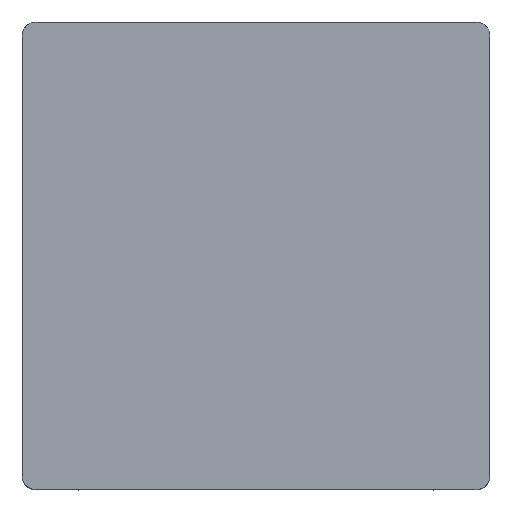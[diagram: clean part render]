
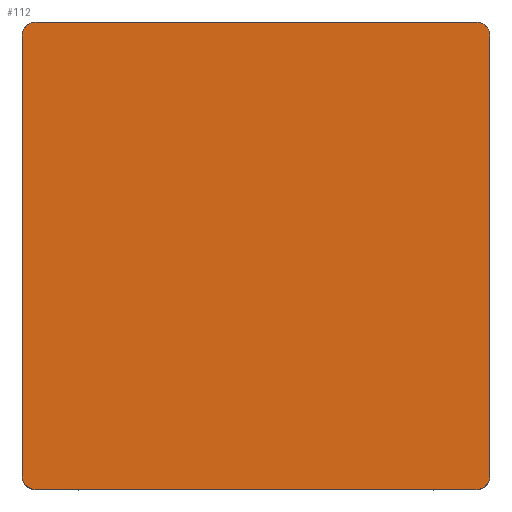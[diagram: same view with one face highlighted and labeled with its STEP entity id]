
A CAD part, top view. The second image highlights one B-rep face of the part: STEP entity #112.
In plain terms, the highlighted planar face has unit normal (0, 0, 1).
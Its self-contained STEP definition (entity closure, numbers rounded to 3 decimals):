
#112=ADVANCED_FACE($,(#342),#2814,.T.);
#342=FACE_OUTER_BOUND($,#572,.T.);
#572=EDGE_LOOP($,(#836,#837,#838,#839,#840,#841,#842,#843));
#836=ORIENTED_EDGE($,*,*,#1887,.F.);
#837=ORIENTED_EDGE($,*,*,#1878,.F.);
#838=ORIENTED_EDGE($,*,*,#1886,.F.);
#839=ORIENTED_EDGE($,*,*,#1877,.F.);
#840=ORIENTED_EDGE($,*,*,#1885,.F.);
#841=ORIENTED_EDGE($,*,*,#1876,.F.);
#842=ORIENTED_EDGE($,*,*,#1884,.F.);
#843=ORIENTED_EDGE($,*,*,#1879,.F.);
#1876=EDGE_CURVE($,#2405,#2404,#3070,.T.);
#1877=EDGE_CURVE($,#2407,#2406,#3071,.T.);
#1878=EDGE_CURVE($,#2409,#2408,#3072,.T.);
#1879=EDGE_CURVE($,#2411,#2410,#3073,.T.);
#1884=EDGE_CURVE($,#2410,#2405,#2918,.T.);
#1885=EDGE_CURVE($,#2404,#2407,#2919,.T.);
#1886=EDGE_CURVE($,#2406,#2409,#2920,.T.);
#1887=EDGE_CURVE($,#2408,#2411,#2921,.T.);
#2404=VERTEX_POINT($,#3870);
#2405=VERTEX_POINT($,#3871);
#2406=VERTEX_POINT($,#3872);
#2407=VERTEX_POINT($,#3873);
#2408=VERTEX_POINT($,#3874);
#2409=VERTEX_POINT($,#3875);
#2410=VERTEX_POINT($,#3876);
#2411=VERTEX_POINT($,#3877);
#2814=PLANE($,#3528);
#2918=(
BOUNDED_CURVE()
B_SPLINE_CURVE(2,(#3764,#3765,#3766),.UNSPECIFIED.,.F.,.F.)
B_SPLINE_CURVE_WITH_KNOTS((3,3),(-1.,0.),.UNSPECIFIED.)
CURVE()
GEOMETRIC_REPRESENTATION_ITEM()
RATIONAL_B_SPLINE_CURVE((1.,0.707,1.))
REPRESENTATION_ITEM($)
);
#2919=(
BOUNDED_CURVE()
B_SPLINE_CURVE(2,(#3767,#3768,#3769),.UNSPECIFIED.,.F.,.F.)
B_SPLINE_CURVE_WITH_KNOTS((3,3),(0.,1.),.UNSPECIFIED.)
CURVE()
GEOMETRIC_REPRESENTATION_ITEM()
RATIONAL_B_SPLINE_CURVE((1.,0.707,1.))
REPRESENTATION_ITEM($)
);
#2920=(
BOUNDED_CURVE()
B_SPLINE_CURVE(2,(#3770,#3771,#3772),.UNSPECIFIED.,.F.,.F.)
B_SPLINE_CURVE_WITH_KNOTS((3,3),(0.,1.),.UNSPECIFIED.)
CURVE()
GEOMETRIC_REPRESENTATION_ITEM()
RATIONAL_B_SPLINE_CURVE((1.,0.707,1.))
REPRESENTATION_ITEM($)
);
#2921=(
BOUNDED_CURVE()
B_SPLINE_CURVE(2,(#3773,#3774,#3775),.UNSPECIFIED.,.F.,.F.)
B_SPLINE_CURVE_WITH_KNOTS((3,3),(0.,1.),.UNSPECIFIED.)
CURVE()
GEOMETRIC_REPRESENTATION_ITEM()
RATIONAL_B_SPLINE_CURVE((1.,0.707,1.))
REPRESENTATION_ITEM($)
);
#3070=B_SPLINE_CURVE_WITH_KNOTS($,1,(#3744,#3745),.UNSPECIFIED.,.F.,.F.,
(2,2),(30.,970.),.UNSPECIFIED.);
#3071=B_SPLINE_CURVE_WITH_KNOTS($,1,(#3746,#3747),.UNSPECIFIED.,.F.,.F.,
(2,2),(30.,970.),.UNSPECIFIED.);
#3072=B_SPLINE_CURVE_WITH_KNOTS($,1,(#3748,#3749),.UNSPECIFIED.,.F.,.F.,
(2,2),(30.,970.),.UNSPECIFIED.);
#3073=B_SPLINE_CURVE_WITH_KNOTS($,1,(#3750,#3751),.UNSPECIFIED.,.F.,.F.,
(2,2),(30.,970.),.UNSPECIFIED.);
#3528=AXIS2_PLACEMENT_3D($,#3810,#3633,$);
#3633=DIRECTION($,(0.,0.,1.));
#3744=CARTESIAN_POINT($,(0.,30.,404.));
#3745=CARTESIAN_POINT($,(0.,970.,404.));
#3746=CARTESIAN_POINT($,(30.,1000.,404.));
#3747=CARTESIAN_POINT($,(970.,1000.,404.));
#3748=CARTESIAN_POINT($,(1000.,970.,404.));
#3749=CARTESIAN_POINT($,(1000.,30.,404.));
#3750=CARTESIAN_POINT($,(970.,0.,404.));
#3751=CARTESIAN_POINT($,(30.,0.,404.));
#3764=CARTESIAN_POINT($,(30.,0.,404.));
#3765=CARTESIAN_POINT($,(0.,0.,404.));
#3766=CARTESIAN_POINT($,(0.,30.,404.));
#3767=CARTESIAN_POINT($,(0.,970.,404.));
#3768=CARTESIAN_POINT($,(0.,1000.,404.));
#3769=CARTESIAN_POINT($,(30.,1000.,404.));
#3770=CARTESIAN_POINT($,(970.,1000.,404.));
#3771=CARTESIAN_POINT($,(1000.,1000.,404.));
#3772=CARTESIAN_POINT($,(1000.,970.,404.));
#3773=CARTESIAN_POINT($,(1000.,30.,404.));
#3774=CARTESIAN_POINT($,(1000.,0.,404.));
#3775=CARTESIAN_POINT($,(970.,0.,404.));
#3810=CARTESIAN_POINT($,(0.,0.,404.));
#3870=CARTESIAN_POINT($,(0.,970.,404.));
#3871=CARTESIAN_POINT($,(0.,30.,404.));
#3872=CARTESIAN_POINT($,(970.,1000.,404.));
#3873=CARTESIAN_POINT($,(30.,1000.,404.));
#3874=CARTESIAN_POINT($,(1000.,30.,404.));
#3875=CARTESIAN_POINT($,(1000.,970.,404.));
#3876=CARTESIAN_POINT($,(30.,0.,404.));
#3877=CARTESIAN_POINT($,(970.,0.,404.));
